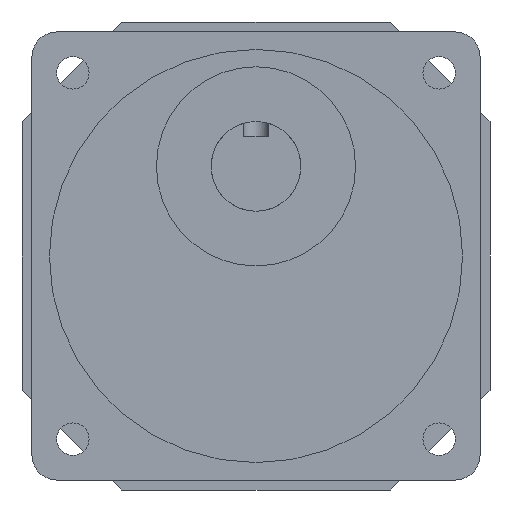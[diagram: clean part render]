
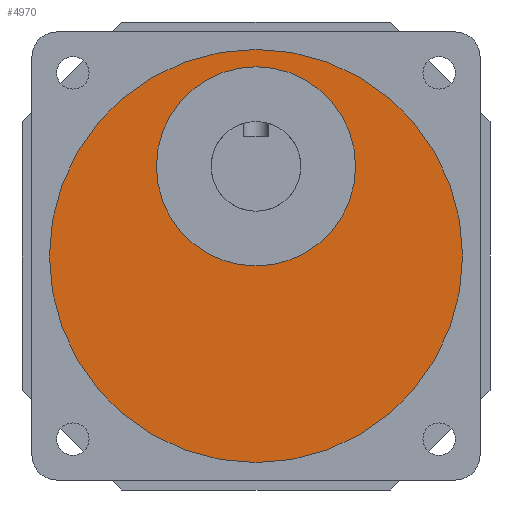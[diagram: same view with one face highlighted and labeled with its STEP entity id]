
A CAD part, front view. The second image highlights one B-rep face of the part: STEP entity #4970.
In plain terms, the highlighted planar face has unit normal (0, -1, 0).
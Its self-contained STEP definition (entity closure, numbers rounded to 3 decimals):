
#169 = CIRCLE ( 'NONE', #5767, 41.5 ) ;
#481 = EDGE_CURVE ( 'NONE', #3275, #1264, #4333, .T. ) ;
#571 = DIRECTION ( 'NONE',  ( 0., 0., -1. ) ) ;
#771 = ORIENTED_EDGE ( 'NONE', *, *, #5467, .F. ) ;
#930 = EDGE_CURVE ( 'NONE', #3319, #1232, #4820, .T. ) ;
#1232 = VERTEX_POINT ( 'NONE', #5782 ) ;
#1264 = VERTEX_POINT ( 'NONE', #3588 ) ;
#1543 = CARTESIAN_POINT ( 'NONE',  ( 45., -83., 45. ) ) ;
#1732 = DIRECTION ( 'NONE',  ( 0., 0., -1. ) ) ;
#1823 = CARTESIAN_POINT ( 'NONE',  ( 45., -83., 45. ) ) ;
#2023 = FACE_OUTER_BOUND ( 'NONE', #3137, .T. ) ;
#2142 = DIRECTION ( 'NONE',  ( 0., 0., -1. ) ) ;
#2204 = DIRECTION ( 'NONE',  ( 0., -1., 0. ) ) ;
#2284 = DIRECTION ( 'NONE',  ( 0., 0., -1. ) ) ;
#2510 = CIRCLE ( 'NONE', #4111, 20. ) ;
#2512 = ORIENTED_EDGE ( 'NONE', *, *, #481, .F. ) ;
#2790 = EDGE_CURVE ( 'NONE', #1232, #3319, #169, .T. ) ;
#2863 = ORIENTED_EDGE ( 'NONE', *, *, #930, .T. ) ;
#2931 = ORIENTED_EDGE ( 'NONE', *, *, #2790, .T. ) ;
#2998 = AXIS2_PLACEMENT_3D ( 'NONE', #1823, #5011, #2284 ) ;
#3137 = EDGE_LOOP ( 'NONE', ( #2863, #2931 ) ) ;
#3143 = DIRECTION ( 'NONE',  ( 0., 0., -1. ) ) ;
#3275 = VERTEX_POINT ( 'NONE', #5819 ) ;
#3319 = VERTEX_POINT ( 'NONE', #4469 ) ;
#3588 = CARTESIAN_POINT ( 'NONE',  ( 45., -83., 83. ) ) ;
#3590 = AXIS2_PLACEMENT_3D ( 'NONE', #5446, #4538, #1732 ) ;
#3625 = CARTESIAN_POINT ( 'NONE',  ( 45., -83., 63. ) ) ;
#4111 = AXIS2_PLACEMENT_3D ( 'NONE', #3625, #2204, #3143 ) ;
#4333 = CIRCLE ( 'NONE', #3590, 20. ) ;
#4397 = AXIS2_PLACEMENT_3D ( 'NONE', #4907, #4872, #2142 ) ;
#4469 = CARTESIAN_POINT ( 'NONE',  ( 45., -83., 3.5 ) ) ;
#4538 = DIRECTION ( 'NONE',  ( 0., -1., 0. ) ) ;
#4565 = PLANE ( 'NONE',  #2998 ) ;
#4739 = DIRECTION ( 'NONE',  ( 0., -1., 0. ) ) ;
#4820 = CIRCLE ( 'NONE', #4397, 41.5 ) ;
#4872 = DIRECTION ( 'NONE',  ( 0., -1., 0. ) ) ;
#4907 = CARTESIAN_POINT ( 'NONE',  ( 45., -83., 45. ) ) ;
#4970 = ADVANCED_FACE ( 'NONE', ( #5293, #2023 ), #4565, .T. ) ;
#5011 = DIRECTION ( 'NONE',  ( 0., -1., 0. ) ) ;
#5293 = FACE_BOUND ( 'NONE', #5458, .T. ) ;
#5446 = CARTESIAN_POINT ( 'NONE',  ( 45., -83., 63. ) ) ;
#5458 = EDGE_LOOP ( 'NONE', ( #771, #2512 ) ) ;
#5467 = EDGE_CURVE ( 'NONE', #1264, #3275, #2510, .T. ) ;
#5767 = AXIS2_PLACEMENT_3D ( 'NONE', #1543, #4739, #571 ) ;
#5782 = CARTESIAN_POINT ( 'NONE',  ( 45., -83., 86.5 ) ) ;
#5819 = CARTESIAN_POINT ( 'NONE',  ( 45., -83., 43. ) ) ;
